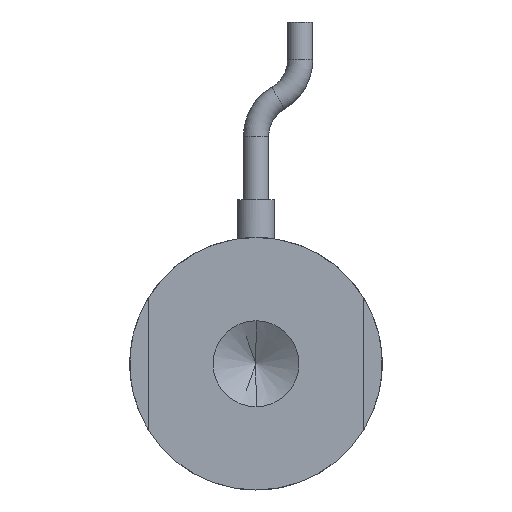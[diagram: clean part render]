
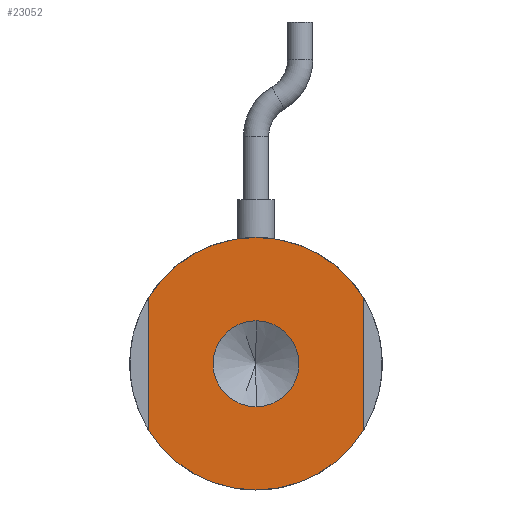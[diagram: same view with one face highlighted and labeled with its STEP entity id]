
A CAD part, front view. The second image highlights one B-rep face of the part: STEP entity #23052.
In plain terms, the highlighted planar face has unit normal (0, -1, 0).
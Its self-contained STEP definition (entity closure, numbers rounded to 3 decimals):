
#47 = ORIENTED_EDGE ( 'NONE', *, *, #16867, .F. ) ;
#1768 = CARTESIAN_POINT ( 'NONE',  ( -8.5, 0., -5.268 ) ) ;
#1992 = AXIS2_PLACEMENT_3D ( 'NONE', #32187, #11401, #35723 ) ;
#2040 = CARTESIAN_POINT ( 'NONE',  ( 0., 0., 10. ) ) ;
#3555 = LINE ( 'NONE', #24167, #22158 ) ;
#3774 = EDGE_CURVE ( 'NONE', #34192, #4455, #7385, .T. ) ;
#3827 = CARTESIAN_POINT ( 'NONE',  ( 8.5, 0., 5.268 ) ) ;
#4161 = EDGE_CURVE ( 'NONE', #38784, #37290, #37849, .T. ) ;
#4455 = VERTEX_POINT ( 'NONE', #31036 ) ;
#5526 = EDGE_CURVE ( 'NONE', #43407, #38784, #18841, .T. ) ;
#6488 = EDGE_LOOP ( 'NONE', ( #18837, #18271 ) ) ;
#7115 = ORIENTED_EDGE ( 'NONE', *, *, #8510, .F. ) ;
#7385 = CIRCLE ( 'NONE', #1992, 3.4 ) ;
#8272 = AXIS2_PLACEMENT_3D ( 'NONE', #32494, #11693, #36012 ) ;
#8510 = EDGE_CURVE ( 'NONE', #15668, #30296, #34932, .T. ) ;
#9411 = EDGE_LOOP ( 'NONE', ( #47, #17013, #36041, #21340, #7115, #34349 ) ) ;
#10128 = CARTESIAN_POINT ( 'NONE',  ( 0., 0., 0. ) ) ;
#10285 = CARTESIAN_POINT ( 'NONE',  ( -8.5, 0., 5.268 ) ) ;
#11154 = DIRECTION ( 'NONE',  ( 0., 1., 0. ) ) ;
#11401 = DIRECTION ( 'NONE',  ( 0., -1., 0. ) ) ;
#11693 = DIRECTION ( 'NONE',  ( 0., 1., 0. ) ) ;
#13339 = CARTESIAN_POINT ( 'NONE',  ( 0., 0., -3.4 ) ) ;
#13649 = DIRECTION ( 'NONE',  ( 0., 0., 1. ) ) ;
#15668 = VERTEX_POINT ( 'NONE', #2040 ) ;
#15782 = CARTESIAN_POINT ( 'NONE',  ( 0., 0., 0. ) ) ;
#15884 = EDGE_CURVE ( 'NONE', #25641, #15668, #43304, .T. ) ;
#16867 = EDGE_CURVE ( 'NONE', #37290, #25641, #3555, .T. ) ;
#17013 = ORIENTED_EDGE ( 'NONE', *, *, #4161, .F. ) ;
#17096 = DIRECTION ( 'NONE',  ( 0., 1., 0. ) ) ;
#18271 = ORIENTED_EDGE ( 'NONE', *, *, #20069, .F. ) ;
#18837 = ORIENTED_EDGE ( 'NONE', *, *, #3774, .F. ) ;
#18841 = CIRCLE ( 'NONE', #25115, 10. ) ;
#19283 = DIRECTION ( 'NONE',  ( 0., 0., -1. ) ) ;
#19420 = CARTESIAN_POINT ( 'NONE',  ( 0., 0., 0. ) ) ;
#20069 = EDGE_CURVE ( 'NONE', #4455, #34192, #37885, .T. ) ;
#20403 = FACE_BOUND ( 'NONE', #6488, .T. ) ;
#20767 = CARTESIAN_POINT ( 'NONE',  ( 8.5, 0., 0. ) ) ;
#21340 = ORIENTED_EDGE ( 'NONE', *, *, #29427, .F. ) ;
#22158 = VECTOR ( 'NONE', #27619, 1000. ) ;
#22879 = LINE ( 'NONE', #20767, #41296 ) ;
#22931 = DIRECTION ( 'NONE',  ( 0., 0., 1. ) ) ;
#23052 = ADVANCED_FACE ( 'NONE', ( #20403, #39956 ), #31945, .F. ) ;
#24167 = CARTESIAN_POINT ( 'NONE',  ( -8.5, 0., 0. ) ) ;
#25115 = AXIS2_PLACEMENT_3D ( 'NONE', #37910, #17096, #41358 ) ;
#25641 = VERTEX_POINT ( 'NONE', #10285 ) ;
#26130 = AXIS2_PLACEMENT_3D ( 'NONE', #15782, #40071, #19283 ) ;
#27619 = DIRECTION ( 'NONE',  ( 0., 0., 1. ) ) ;
#27680 = AXIS2_PLACEMENT_3D ( 'NONE', #10128, #34473, #13649 ) ;
#28434 = CARTESIAN_POINT ( 'NONE',  ( 0., 0., 0. ) ) ;
#28771 = AXIS2_PLACEMENT_3D ( 'NONE', #28434, #11154, #35486 ) ;
#29427 = EDGE_CURVE ( 'NONE', #30296, #43407, #22879, .T. ) ;
#30296 = VERTEX_POINT ( 'NONE', #3827 ) ;
#31036 = CARTESIAN_POINT ( 'NONE',  ( 0., 0., 3.4 ) ) ;
#31900 = CARTESIAN_POINT ( 'NONE',  ( 0., 0., -10. ) ) ;
#31945 = PLANE ( 'NONE',  #28771 ) ;
#32187 = CARTESIAN_POINT ( 'NONE',  ( 0., 0., 0. ) ) ;
#32494 = CARTESIAN_POINT ( 'NONE',  ( 0., 0., 0. ) ) ;
#34192 = VERTEX_POINT ( 'NONE', #13339 ) ;
#34349 = ORIENTED_EDGE ( 'NONE', *, *, #15884, .F. ) ;
#34473 = DIRECTION ( 'NONE',  ( 0., 1., 0. ) ) ;
#34932 = CIRCLE ( 'NONE', #44844, 10. ) ;
#35486 = DIRECTION ( 'NONE',  ( 0., 0., 1. ) ) ;
#35723 = DIRECTION ( 'NONE',  ( 0., 0., -1. ) ) ;
#36012 = DIRECTION ( 'NONE',  ( 0., 0., 1. ) ) ;
#36041 = ORIENTED_EDGE ( 'NONE', *, *, #5526, .F. ) ;
#37290 = VERTEX_POINT ( 'NONE', #1768 ) ;
#37849 = CIRCLE ( 'NONE', #27680, 10. ) ;
#37885 = CIRCLE ( 'NONE', #26130, 3.4 ) ;
#37910 = CARTESIAN_POINT ( 'NONE',  ( 0., 0., 0. ) ) ;
#38784 = VERTEX_POINT ( 'NONE', #31900 ) ;
#39956 = FACE_OUTER_BOUND ( 'NONE', #9411, .T. ) ;
#40071 = DIRECTION ( 'NONE',  ( 0., -1., 0. ) ) ;
#41296 = VECTOR ( 'NONE', #44943, 1000. ) ;
#41358 = DIRECTION ( 'NONE',  ( 0., 0., 1. ) ) ;
#43133 = CARTESIAN_POINT ( 'NONE',  ( 8.5, 0., -5.268 ) ) ;
#43304 = CIRCLE ( 'NONE', #8272, 10. ) ;
#43407 = VERTEX_POINT ( 'NONE', #43133 ) ;
#43656 = DIRECTION ( 'NONE',  ( 0., 1., 0. ) ) ;
#44844 = AXIS2_PLACEMENT_3D ( 'NONE', #19420, #43656, #22931 ) ;
#44943 = DIRECTION ( 'NONE',  ( 0., 0., -1. ) ) ;
